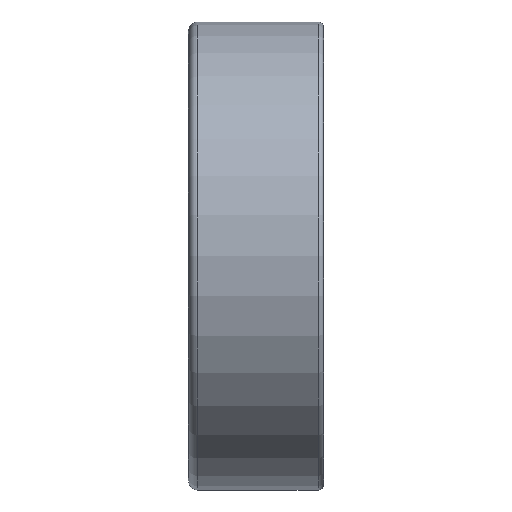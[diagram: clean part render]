
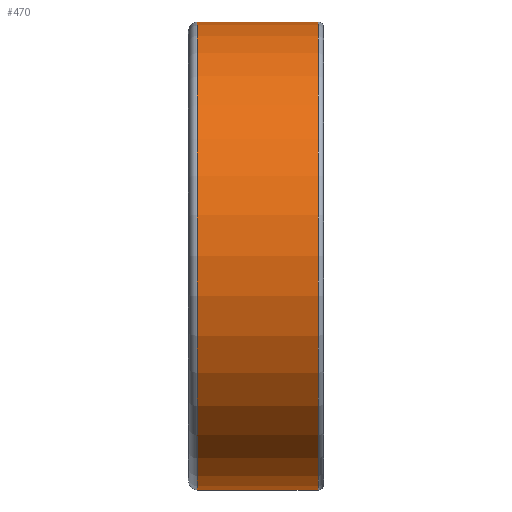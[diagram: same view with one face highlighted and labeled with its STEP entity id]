
A CAD part, top view. The second image highlights one B-rep face of the part: STEP entity #470.
In plain terms, the highlighted cylindrical face has radius 26 mm (diameter 52 mm), a full revolution.
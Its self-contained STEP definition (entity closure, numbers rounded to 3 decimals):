
#152=CYLINDRICAL_SURFACE('',#722,26.);
#232=EDGE_LOOP('',(#324));
#233=EDGE_LOOP('',(#325));
#324=ORIENTED_EDGE('',*,*,#378,.F.);
#325=ORIENTED_EDGE('',*,*,#376,.T.);
#376=EDGE_CURVE('',#659,#659,#396,.T.);
#378=EDGE_CURVE('',#661,#661,#398,.T.);
#396=CIRCLE('',#718,26.);
#398=CIRCLE('',#721,26.);
#470=ADVANCED_FACE('',(#581,#582),#152,.T.);
#581=FACE_BOUND('',#232,.T.);
#582=FACE_BOUND('',#233,.T.);
#659=VERTEX_POINT('',#2474);
#661=VERTEX_POINT('',#2479);
#718=AXIS2_PLACEMENT_3D('',#2473,#831,#832);
#721=AXIS2_PLACEMENT_3D('',#2478,#837,#838);
#722=AXIS2_PLACEMENT_3D('',#2480,#839,#840);
#831=DIRECTION('',(1.,0.,0.));
#832=DIRECTION('',(0.,0.,-1.));
#837=DIRECTION('',(1.,0.,0.));
#838=DIRECTION('',(0.,0.,-1.));
#839=DIRECTION('',(1.,0.,0.));
#840=DIRECTION('',(0.,0.,-1.));
#2473=CARTESIAN_POINT('',(-6.5,0.,0.));
#2474=CARTESIAN_POINT('',(-6.5,0.,-26.));
#2478=CARTESIAN_POINT('',(6.9,0.,0.));
#2479=CARTESIAN_POINT('',(6.9,0.,-26.));
#2480=CARTESIAN_POINT('',(-6.5,0.,0.));
